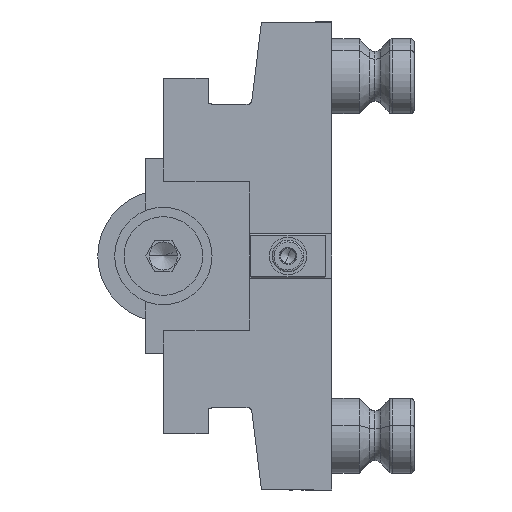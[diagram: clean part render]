
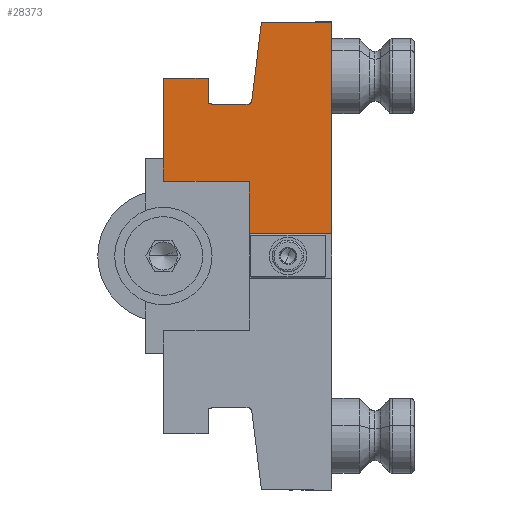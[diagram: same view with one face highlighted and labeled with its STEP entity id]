
A CAD part, left-side view. The second image highlights one B-rep face of the part: STEP entity #28373.
In plain terms, the highlighted planar face has unit normal (-1, 0, 0).
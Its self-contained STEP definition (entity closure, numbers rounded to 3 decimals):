
#448 = AXIS2_PLACEMENT_3D ( 'NONE', #42441, #15822, #38081 ) ;
#478 = VERTEX_POINT ( 'NONE', #6328 ) ;
#1012 = VERTEX_POINT ( 'NONE', #26850 ) ;
#1175 = DIRECTION ( 'NONE',  ( 0., 0., 1. ) ) ;
#1881 = DIRECTION ( 'NONE',  ( 0., 1., 0. ) ) ;
#2202 = EDGE_CURVE ( 'NONE', #47732, #12619, #21942, .T. ) ;
#2259 = FACE_OUTER_BOUND ( 'NONE', #23351, .T. ) ;
#2971 = VERTEX_POINT ( 'NONE', #10692 ) ;
#3352 = CIRCLE ( 'NONE', #35880, 1. ) ;
#3421 = VERTEX_POINT ( 'NONE', #17332 ) ;
#3703 = DIRECTION ( 'NONE',  ( 0., 0., 1. ) ) ;
#3732 = VERTEX_POINT ( 'NONE', #37065 ) ;
#4794 = DIRECTION ( 'NONE',  ( 0., 0.122, -0.993 ) ) ;
#5366 = EDGE_CURVE ( 'NONE', #45796, #1012, #22928, .T. ) ;
#6019 = LINE ( 'NONE', #35106, #10352 ) ;
#6050 = VECTOR ( 'NONE', #37024, 1000. ) ;
#6178 = ORIENTED_EDGE ( 'NONE', *, *, #45209, .T. ) ;
#6328 = CARTESIAN_POINT ( 'NONE',  ( -210., 33., 20. ) ) ;
#6355 = CARTESIAN_POINT ( 'NONE',  ( -210., 0., 62.5 ) ) ;
#7169 = ORIENTED_EDGE ( 'NONE', *, *, #20649, .T. ) ;
#7296 = CARTESIAN_POINT ( 'NONE',  ( -210., 22.385, 41.5 ) ) ;
#7588 = VECTOR ( 'NONE', #1175, 1000. ) ;
#8733 = EDGE_CURVE ( 'NONE', #21226, #1012, #11745, .T. ) ;
#9218 = EDGE_CURVE ( 'NONE', #24485, #40349, #26692, .T. ) ;
#9796 = LINE ( 'NONE', #35218, #27239 ) ;
#10298 = ORIENTED_EDGE ( 'NONE', *, *, #19057, .T. ) ;
#10352 = VECTOR ( 'NONE', #1881, 1000. ) ;
#10532 = CIRCLE ( 'NONE', #448, 1. ) ;
#10692 = CARTESIAN_POINT ( 'NONE',  ( -210., 21.392, 41.378 ) ) ;
#10919 = EDGE_CURVE ( 'NONE', #21429, #45796, #47445, .T. ) ;
#11295 = CARTESIAN_POINT ( 'NONE',  ( -210., 0., 6. ) ) ;
#11745 = LINE ( 'NONE', #29906, #33188 ) ;
#12345 = LINE ( 'NONE', #22348, #36718 ) ;
#12455 = CARTESIAN_POINT ( 'NONE',  ( -210., 31.8, 40.5 ) ) ;
#12619 = VERTEX_POINT ( 'NONE', #12455 ) ;
#12676 = CARTESIAN_POINT ( 'NONE',  ( -210., 22.385, 40.5 ) ) ;
#14741 = CARTESIAN_POINT ( 'NONE',  ( -210., 32.4, 40.7 ) ) ;
#15535 = CARTESIAN_POINT ( 'NONE',  ( -210., 33., 19.699 ) ) ;
#15822 = DIRECTION ( 'NONE',  ( 1., 0., 0. ) ) ;
#15882 = EDGE_CURVE ( 'NONE', #478, #20401, #6019, .T. ) ;
#16107 = CARTESIAN_POINT ( 'NONE',  ( -210., 22., 19.8 ) ) ;
#17332 = CARTESIAN_POINT ( 'NONE',  ( -210., 33., 19.8 ) ) ;
#18039 = DIRECTION ( 'NONE',  ( -1., 0., 0. ) ) ;
#19023 = DIRECTION ( 'NONE',  ( 0., 0., -1. ) ) ;
#19057 = EDGE_CURVE ( 'NONE', #12619, #40349, #10532, .T. ) ;
#19102 = DIRECTION ( 'NONE',  ( 0., -1., 0. ) ) ;
#19404 = LINE ( 'NONE', #34194, #25106 ) ;
#19874 = DIRECTION ( 'NONE',  ( 1., 0., 0. ) ) ;
#20188 = DIRECTION ( 'NONE',  ( 0., -1., 0. ) ) ;
#20379 = ORIENTED_EDGE ( 'NONE', *, *, #46423, .T. ) ;
#20401 = VERTEX_POINT ( 'NONE', #39440 ) ;
#20649 = EDGE_CURVE ( 'NONE', #2971, #47732, #3352, .T. ) ;
#20752 = ORIENTED_EDGE ( 'NONE', *, *, #10919, .F. ) ;
#20866 = VECTOR ( 'NONE', #25109, 1000. ) ;
#20958 = DIRECTION ( 'NONE',  ( 0., 0., -1. ) ) ;
#21226 = VERTEX_POINT ( 'NONE', #16107 ) ;
#21429 = VERTEX_POINT ( 'NONE', #6355 ) ;
#21808 = CARTESIAN_POINT ( 'NONE',  ( -210., 0., 62.8 ) ) ;
#21909 = CARTESIAN_POINT ( 'NONE',  ( -210., 33., 47.5 ) ) ;
#21942 = LINE ( 'NONE', #39798, #32429 ) ;
#22208 = ORIENTED_EDGE ( 'NONE', *, *, #2202, .T. ) ;
#22348 = CARTESIAN_POINT ( 'NONE',  ( -210., 18.762, 62.8 ) ) ;
#22622 = CARTESIAN_POINT ( 'NONE',  ( -210., 33., 40.7 ) ) ;
#22928 = LINE ( 'NONE', #45420, #41229 ) ;
#23302 = ORIENTED_EDGE ( 'NONE', *, *, #15882, .F. ) ;
#23351 = EDGE_LOOP ( 'NONE', ( #34469, #39666, #20752, #27772, #47565, #7169, #22208, #10298, #35679, #29076, #6178, #31654, #23302, #38973, #20379 ) ) ;
#23447 = CARTESIAN_POINT ( 'NONE',  ( -210., 45.2, 19.8 ) ) ;
#23758 = VERTEX_POINT ( 'NONE', #21909 ) ;
#24033 = CARTESIAN_POINT ( 'NONE',  ( -210., 33., 40.7 ) ) ;
#24485 = VERTEX_POINT ( 'NONE', #22622 ) ;
#25106 = VECTOR ( 'NONE', #26894, 1000. ) ;
#25109 = DIRECTION ( 'NONE',  ( 0., -1., 0. ) ) ;
#25415 = EDGE_CURVE ( 'NONE', #3732, #21429, #46899, .T. ) ;
#26487 = LINE ( 'NONE', #44914, #32961 ) ;
#26692 = LINE ( 'NONE', #24033, #30922 ) ;
#26850 = CARTESIAN_POINT ( 'NONE',  ( -210., 22., 6. ) ) ;
#26894 = DIRECTION ( 'NONE',  ( 0., 1., 0. ) ) ;
#27239 = VECTOR ( 'NONE', #20958, 1000. ) ;
#27772 = ORIENTED_EDGE ( 'NONE', *, *, #25415, .F. ) ;
#28373 = ADVANCED_FACE ( 'NONE', ( #2259 ), #46623, .T. ) ;
#28690 = EDGE_CURVE ( 'NONE', #3732, #2971, #12345, .T. ) ;
#29076 = ORIENTED_EDGE ( 'NONE', *, *, #29386, .F. ) ;
#29386 = EDGE_CURVE ( 'NONE', #23758, #24485, #26487, .T. ) ;
#29906 = CARTESIAN_POINT ( 'NONE',  ( -210., 22., 19.8 ) ) ;
#30272 = LINE ( 'NONE', #15535, #7588 ) ;
#30922 = VECTOR ( 'NONE', #20188, 1000. ) ;
#31654 = ORIENTED_EDGE ( 'NONE', *, *, #34119, .T. ) ;
#32226 = VECTOR ( 'NONE', #19102, 1000. ) ;
#32429 = VECTOR ( 'NONE', #32840, 1000. ) ;
#32654 = VERTEX_POINT ( 'NONE', #46324 ) ;
#32840 = DIRECTION ( 'NONE',  ( 0., 1., 0. ) ) ;
#32961 = VECTOR ( 'NONE', #41958, 1000. ) ;
#33188 = VECTOR ( 'NONE', #19023, 1000. ) ;
#34119 = EDGE_CURVE ( 'NONE', #32654, #20401, #9796, .T. ) ;
#34194 = CARTESIAN_POINT ( 'NONE',  ( -210., 45.2, 47.5 ) ) ;
#34469 = ORIENTED_EDGE ( 'NONE', *, *, #8733, .T. ) ;
#35106 = CARTESIAN_POINT ( 'NONE',  ( -210., 45., 20. ) ) ;
#35218 = CARTESIAN_POINT ( 'NONE',  ( -210., 45., 62.8 ) ) ;
#35679 = ORIENTED_EDGE ( 'NONE', *, *, #9218, .F. ) ;
#35880 = AXIS2_PLACEMENT_3D ( 'NONE', #7296, #19874, #41363 ) ;
#35994 = CARTESIAN_POINT ( 'NONE',  ( -210., 45., 62.5 ) ) ;
#36718 = VECTOR ( 'NONE', #4794, 1000. ) ;
#37024 = DIRECTION ( 'NONE',  ( 0., 0., -1. ) ) ;
#37065 = CARTESIAN_POINT ( 'NONE',  ( -210., 18.799, 62.5 ) ) ;
#38081 = DIRECTION ( 'NONE',  ( 0., 0., 1. ) ) ;
#38395 = DIRECTION ( 'NONE',  ( 0., 1., 0. ) ) ;
#38973 = ORIENTED_EDGE ( 'NONE', *, *, #47972, .F. ) ;
#39440 = CARTESIAN_POINT ( 'NONE',  ( -210., 45., 20. ) ) ;
#39666 = ORIENTED_EDGE ( 'NONE', *, *, #5366, .F. ) ;
#39798 = CARTESIAN_POINT ( 'NONE',  ( -210., 21.5, 40.5 ) ) ;
#40308 = CARTESIAN_POINT ( 'NONE',  ( -210., 45., 62.8 ) ) ;
#40349 = VERTEX_POINT ( 'NONE', #14741 ) ;
#41229 = VECTOR ( 'NONE', #38395, 1000. ) ;
#41363 = DIRECTION ( 'NONE',  ( 0., 0., 1. ) ) ;
#41958 = DIRECTION ( 'NONE',  ( 0., 0., -1. ) ) ;
#42056 = LINE ( 'NONE', #23447, #32226 ) ;
#42441 = CARTESIAN_POINT ( 'NONE',  ( -210., 31.8, 41.5 ) ) ;
#44389 = AXIS2_PLACEMENT_3D ( 'NONE', #40308, #18039, #3703 ) ;
#44914 = CARTESIAN_POINT ( 'NONE',  ( -210., 33., 47.5 ) ) ;
#45209 = EDGE_CURVE ( 'NONE', #23758, #32654, #19404, .T. ) ;
#45420 = CARTESIAN_POINT ( 'NONE',  ( -210., 22., 6. ) ) ;
#45796 = VERTEX_POINT ( 'NONE', #11295 ) ;
#46324 = CARTESIAN_POINT ( 'NONE',  ( -210., 45., 47.5 ) ) ;
#46423 = EDGE_CURVE ( 'NONE', #3421, #21226, #42056, .T. ) ;
#46623 = PLANE ( 'NONE',  #44389 ) ;
#46899 = LINE ( 'NONE', #35994, #20866 ) ;
#47445 = LINE ( 'NONE', #21808, #6050 ) ;
#47565 = ORIENTED_EDGE ( 'NONE', *, *, #28690, .T. ) ;
#47732 = VERTEX_POINT ( 'NONE', #12676 ) ;
#47972 = EDGE_CURVE ( 'NONE', #3421, #478, #30272, .T. ) ;
